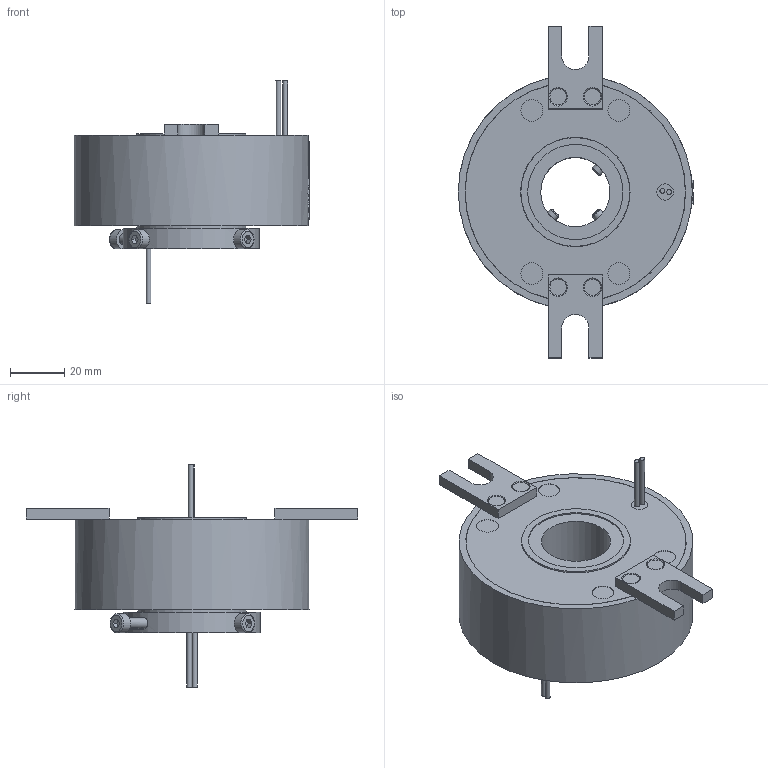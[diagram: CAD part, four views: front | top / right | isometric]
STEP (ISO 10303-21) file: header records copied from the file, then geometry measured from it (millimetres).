
FILE_DESCRIPTION(/* description */ (''),/* implementation_level */ '2;1');
FILE_NAME(/* name */ 'YDS2586-0210-3D模型.stp',/* time_stamp */ '2025-09-04T08:21:38+08:00',/* author */ (''),/* organization */ (''),/* preprocessor_version */ 'ST-DEVELOPER v16.7',/* originating_system */ 'SIEMENS PLM Software NX 12.0',/* authorisation */ '');
FILE_SCHEMA (('AUTOMOTIVE_DESIGN { 1 0 10303 214 3 1 1 1 }'));
Length unit declared in the file: millimetre
Products named in the file (1): Admi3138F06C1evd
Bounding box: 86.5 x 122 x 81.6 mm (x, y, z)
Volume: 192837.8 mm3; surface area: 32088.9 mm2
Topology: 1 solids, 5 shells, 894 faces, 2384 edges, 1583 vertices
Faces by surface type: extrusion 452, plane 325, cylinder 68, bspline 33, cone 12, torus 4
Full cylindrical faces by diameter (mm): 1.8 x4, 3 x4, 3.3 x1, 3.5 x4, 4 x7, 6 x5, 7 x4, 8 x4, 25.4 x1, 35 x1, 40 x2, 40.2 x1, 43 x1, 43.2 x1, 50 x1, 80.9 x2, 81 x2, 86 x1
Entity records: 36103 total; most frequent: CARTESIAN_POINT 17409, ORIENTED_EDGE 4612, EDGE_CURVE 2306, B_SPLINE_CURVE_WITH_KNOTS 2203, DIRECTION 2096, VERTEX_POINT 1567, EDGE_LOOP 1053, ADVANCED_FACE 894
